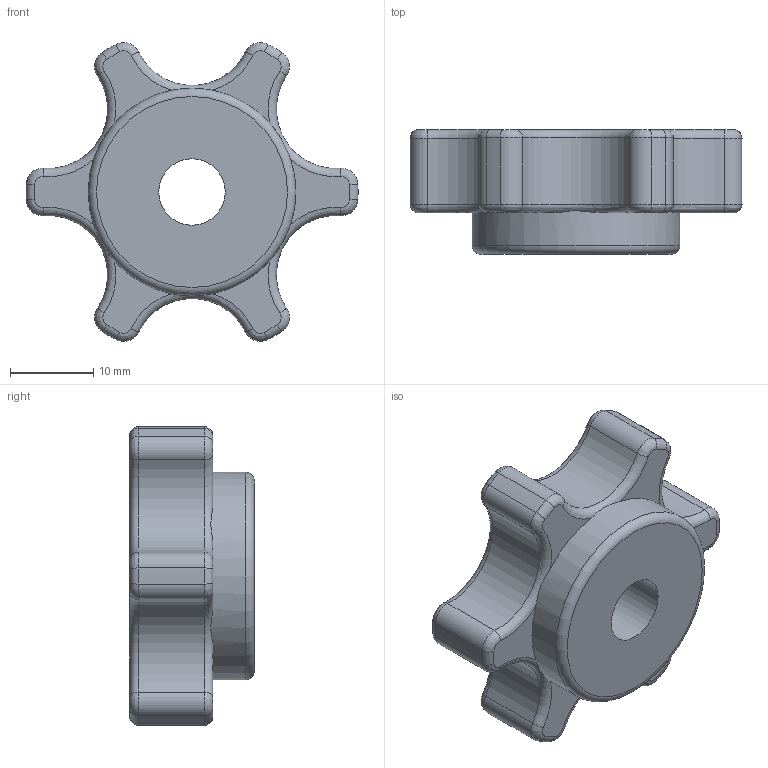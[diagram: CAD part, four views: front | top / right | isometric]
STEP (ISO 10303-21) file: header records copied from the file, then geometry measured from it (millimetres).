
FILE_DESCRIPTION(/* description */ (''),/* implementation_level */ '2;1');
FILE_NAME(/* name */ 'C:/Users/Stefano/Desktop/Thinkerlab/Progetti/Volume detector/Handle.step',/* time_stamp */ '2022-09-12T15:01:06+02:00',/* author */ (''),/* organization */ (''),/* preprocessor_version */ 'ST-DEVELOPER v19',/* originating_system */ 'Autodesk Translation Framework v11.7.0.108',/* authorisation */ '');
FILE_SCHEMA (('AUTOMOTIVE_DESIGN { 1 0 10303 214 3 1 1 }'));
Length unit declared in the file: millimetre
Products named in the file (1): Handle
Bounding box: 39.99 x 15 x 36.01 mm (x, y, z)
Volume: 9021.3 mm3; surface area: 3680.4 mm2
Topology: 1 solids, 1 shells, 96 faces, 225 edges, 132 vertices
Faces by surface type: cylinder 32, torus 25, bspline 24, plane 15
Full cylindrical faces by diameter (mm): 8 x1, 25 x1
Entity records: 3134 total; most frequent: CARTESIAN_POINT 866, DIRECTION 534, ORIENTED_EDGE 450, AXIS2_PLACEMENT_3D 242, EDGE_CURVE 225, CIRCLE 163, VERTEX_POINT 132, EDGE_LOOP 99
